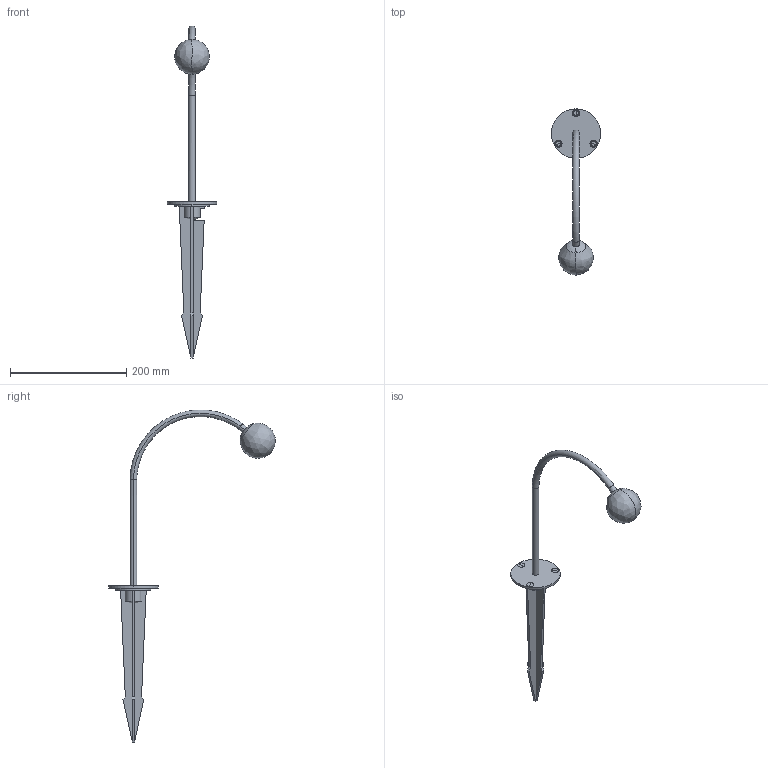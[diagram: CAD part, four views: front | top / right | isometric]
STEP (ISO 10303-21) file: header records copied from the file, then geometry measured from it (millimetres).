
FILE_DESCRIPTION(/* description */ (''),/* implementation_level */ '2;1');
FILE_NAME(/* name */ '75581.step',/* time_stamp */ '2024-10-24T09:49:36+02:00',/* author */ ('RenataManzini'),/* organization */ (''),/* preprocessor_version */ 'ST-DEVELOPER v20',/* originating_system */ 'AutoCAD Mechanical',/* authorisation */ '');
FILE_SCHEMA (('AUTOMOTIVE_DESIGN { 1 0 10303 214 3 1 1 }'));
Length unit declared in the file: millimetre
Products named in the file (1): Product
Bounding box: 85 x 286.79 x 571.68 mm (x, y, z)
Volume: 272318.7 mm3; surface area: 87769.2 mm2
Topology: 10 solids, 10 shells, 94 faces, 182 edges, 106 vertices
Faces by surface type: plane 52, cylinder 22, cone 14, bspline 4, torus 2
Entity records: 2650 total; most frequent: CARTESIAN_POINT 702, DIRECTION 419, ORIENTED_EDGE 358, EDGE_CURVE 179, AXIS2_PLACEMENT_3D 155, LINE 109, VECTOR 109, VERTEX_POINT 105
